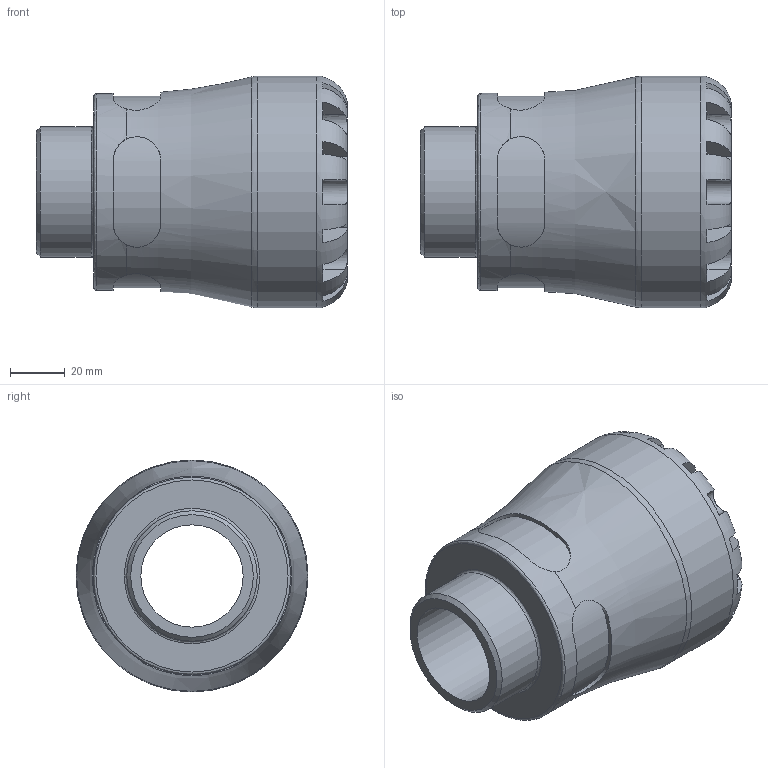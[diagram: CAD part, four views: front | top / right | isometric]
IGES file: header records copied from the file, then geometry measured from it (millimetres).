
Global section: file name: 100200050015_190200050015.ipt; native system: Autodesk Inventor 2015; preprocessor: unknown; author: KIM; date: 20170727.143954; units: millimetre
Bounding box: 114 x 85 x 85 mm (x, y, z)
Volume: 284082.3 mm3; surface area: 51767.3 mm2
Topology: 1 solids, 1 shells, 100 faces, 268 edges, 172 vertices
Faces by surface type: plane 60, revolution 24, cylinder 15, cone 1
Full cylindrical faces by diameter (mm): 47.803 x1, 72.25 x1, 85 x1
